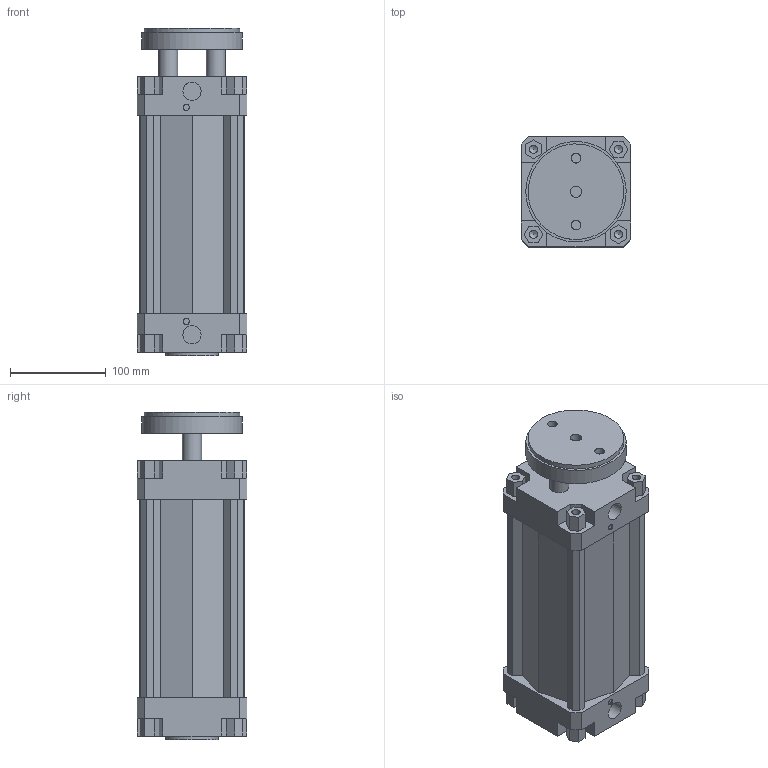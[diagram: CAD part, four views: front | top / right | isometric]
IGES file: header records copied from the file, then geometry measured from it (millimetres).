
Global section: file name: 132#_100_0150_01; native system: Autodesk Inventor 2014; preprocessor: unknown; author: A. Manieri; date: 20161006.163658; units: millimetre
Bounding box: 115 x 115 x 343 mm (x, y, z)
Volume: 2244386.8 mm3; surface area: 347954.3 mm2
Topology: 2 solids, 2 shells, 180 faces, 491 edges, 335 vertices
Faces by surface type: bspline 180
